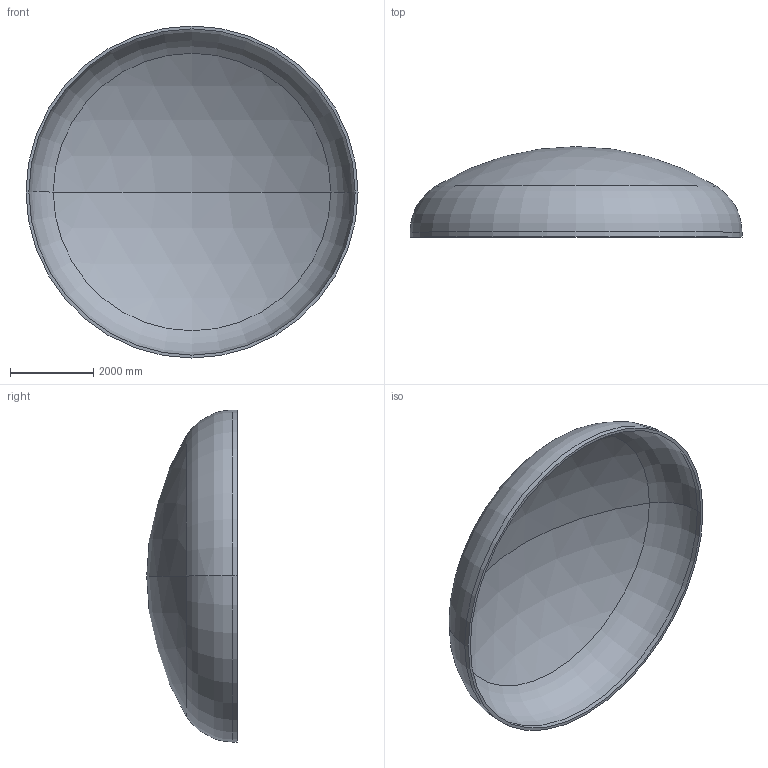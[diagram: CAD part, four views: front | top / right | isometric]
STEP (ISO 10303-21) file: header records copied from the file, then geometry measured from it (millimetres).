
FILE_DESCRIPTION (( 'STEP AP203' ), '1' );
FILE_NAME ('DIN 28013 Korbbogenform_-_Boden DIN 28013 - 8000 x 120 - I - s=70.step', '2016-07-04T11:03:27', ( '' ), ( '' ), 'SwSTEP 2.0', 'SolidWorks 2013', '' );
FILE_SCHEMA (( 'CONFIG_CONTROL_DESIGN' ));
Length unit declared in the file: millimetre
Products named in the file (1): DIN 28013 Korbbogenform_-_Boden DIN 28013 - 8000 x 120 - I - s=70
Bounding box: 8000 x 2181.04 x 8000 mm (x, y, z)
Volume: 5024874831.1 mm3; surface area: 145321957 mm2
Topology: 1 solids, 1 shells, 13 faces, 24 edges, 14 vertices
Faces by surface type: torus 4, cylinder 4, sphere 4, plane 1
Entity records: 407 total; most frequent: DIRECTION 72, CARTESIAN_POINT 52, ORIENTED_EDGE 48, AXIS2_PLACEMENT_3D 34, EDGE_CURVE 24, CIRCLE 20, EDGE_LOOP 14, VERTEX_POINT 14
